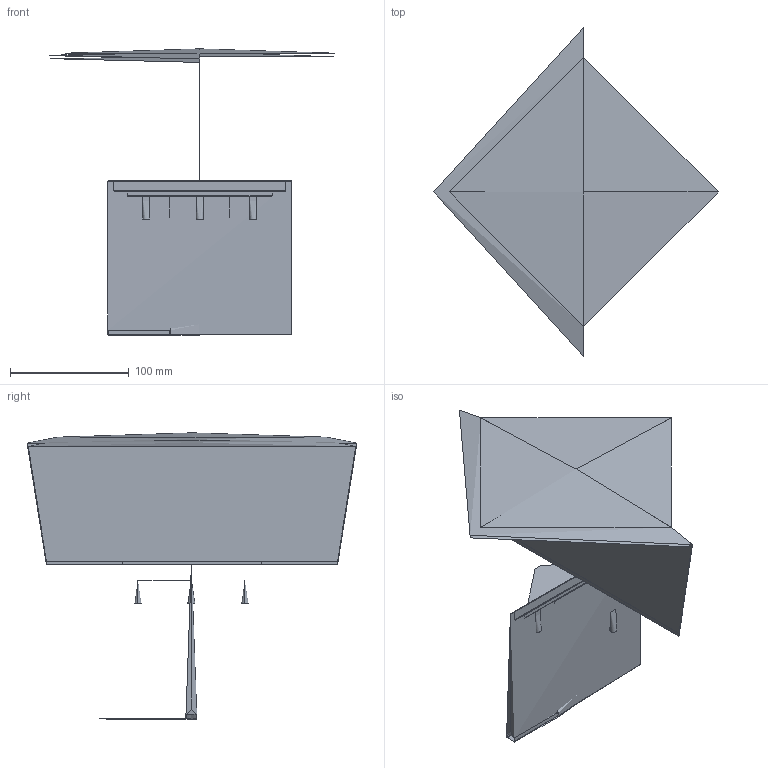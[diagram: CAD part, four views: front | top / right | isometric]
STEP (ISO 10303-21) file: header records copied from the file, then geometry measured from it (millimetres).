
FILE_DESCRIPTION(/* description */ (''),/* implementation_level */ '2;1');
FILE_NAME(/* name */ 'Itka base',/* time_stamp */ '2025-07-18T12:13:05+02:00',/* author */ (''),/* organization */ (''),/* preprocessor_version */ 'ST-DEVELOPER v16.5',/* originating_system */ 'Rhino 7.37',/* authorisation */ '');
FILE_SCHEMA (('AUTOMOTIVE_DESIGN'));
Length unit declared in the file: millimetre
Products named in the file (1): Document
Bounding box: 239.13 x 277.4 x 240.93 mm (x, y, z)
Volume: 2142265.3 mm3; surface area: 607411.9 mm2
Topology: 1 solids, 21 shells, 87 faces, 253 edges, 188 vertices
Faces by surface type: bspline 38, plane 26, cylinder 23
Entity records: 3438 total; most frequent: CARTESIAN_POINT 1789, ORIENTED_EDGE 364, EDGE_CURVE 228, VERTEX_POINT 166, EDGE_LOOP 96, ADVANCED_FACE 87, FACE_OUTER_BOUND 87, DIRECTION 67
